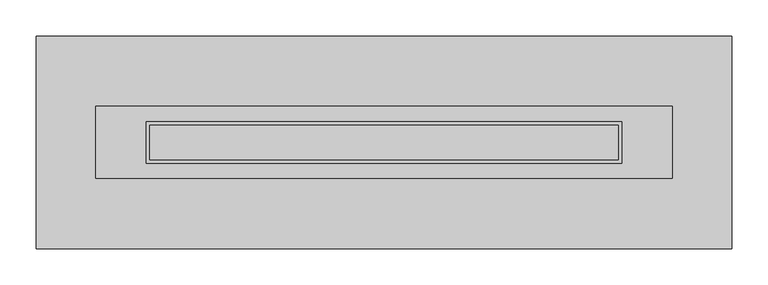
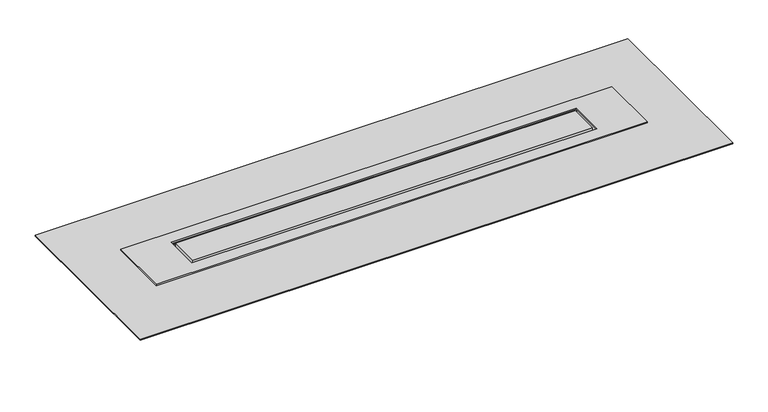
"""IFC4 building model written with IfcOpenShell, lengths in millimetres: sanitary terminal geometry, NLRS_PF_52_UN_Compact TAF Modulo Design_Easydrain : Compact TAF Modulo Design Z4."""

from ifc_helpers import new_model, si_unit, frame, origin, place, context, project, spatial, polyline, circle_curve, ellipse_curve, outline, extrude, source, transform, mapped, element, save
from ifc_brep_helpers import plane_surface, cylinder_surface, advanced_brep


def sanitary_terminal_9a77729b(model_context):
    return source(origin(), model_context, "Body", "SolidModel", [
        extrude(outline(polyline([(-175.0, -24.0), (-175.0, 24.0), (475.0, 24.0), (475.0, -24.0), (-175.0, -24.0)])), frame((0.0, 0.0, -7.0), z_axis=(0.0, 0.0, 1.0), x_axis=(1.0, 0.0, 0.0)), (0.0, 0.0, 1.0), 7.0),
        extrude(outline(polyline([(550.0, 50.0), (550.0, -50.0), (-250.0, -50.0), (-250.0, 50.0), (550.0, 50.0)]), holes=[polyline([(480.0, 29.0), (-180.0, 29.0), (-180.0, -29.0), (480.0, -29.0), (480.0, 29.0)])]), frame((0.0, 0.0, -2.0), z_axis=(0.0, 0.0, 1.0), x_axis=(1.0, 0.0, 0.0)), (0.0, 0.0, 1.0), 2.0),
        extrude(outline(polyline([(632.5, 147.5), (632.5, -147.5), (-332.5, -147.5), (-332.5, 147.5), (632.5, 147.5)]), holes=[polyline([(532.5, 31.0), (-232.5, 31.0), (-232.5, -31.0), (532.5, -31.0), (532.5, 31.0)])]), frame((0.0, 0.0, -8.0), z_axis=(0.0, 0.0, 1.0), x_axis=(1.0, 0.0, 0.0)), (0.0, 0.0, 1.0), 2.0),
        advanced_brep(
        [(-232.5, -31.0, -25.0), (40.0, -31.0, -27.0), (40.0, -31.0, -70.0), (260.0, -31.0, -70.0), (260.0, -31.0, -27.0), (532.5, -31.0, -25.0), (532.5, -31.0, -9.0), (-232.5, -31.0, -9.0), (150.0, -31.0, -25.0), (150.0, -31.0, -65.0), (532.5, 31.0, -25.0), (260.0, 31.0, -27.0), (260.0, 31.0, -70.0), (40.0, 31.0, -70.0), (40.0, 31.0, -27.0), (-232.5, 31.0, -25.0), (-232.5, 31.0, -9.0), (532.5, 31.0, -9.0), (-212.5, 0.0, -25.146789), (-172.5, 0.0, -25.440367), (532.5, 30.0, -9.0), (532.5, -30.0, -9.0), (550.0, 47.5, -7.0), (-250.0, 47.5, -7.0), (-250.0, -64.5, -7.0), (550.0, -64.5, -7.0), (-232.5, -30.0, -9.0), (-232.5, 30.0, -9.0), (472.5, 0.0, -25.440367), (512.5, 0.0, -25.146789), (150.0, -50.0, -25.0), (150.0, -50.0, -65.0), (550.0, 47.5, -9.0), (550.0, -64.5, -9.0), (-250.0, -64.5, -9.0), (-250.0, 47.5, -9.0), (-212.5, 0.0, -70.0), (-172.5, 0.0, -70.0), (472.5, 0.0, -70.0), (512.5, 0.0, -70.0)],
        [
            (0, 1),
            (1, 2),
            (2, 3),
            (3, 4),
            (4, 5),
            (5, 6),
            (6, 7),
            (7, 0),
            (8, 9, circle_curve(frame((150.0, -31.0, -45.0), z_axis=(0.0, 1.0, 0.0), x_axis=(0.0, 0.0, -1.0)), 20.0)),
            (9, 8, circle_curve(frame((150.0, -31.0, -45.0), z_axis=(0.0, 1.0, 0.0), x_axis=(0.0, 0.0, -1.0)), 20.0)),
            (10, 11),
            (11, 12),
            (12, 13),
            (13, 14),
            (14, 15),
            (15, 16),
            (16, 17),
            (17, 10),
            (0, 15),
            (14, 1),
            (18, 19, ellipse_curve(frame((-192.5, 0.0, -25.293578), z_axis=(0.007339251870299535, 0.0, 0.9999730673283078), x_axis=(-0.9999730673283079, 0.0, 0.007339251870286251)), 20.0005387, 20.0)),
            (19, 18, ellipse_curve(frame((-192.5, 0.0, -25.293578), z_axis=(0.007339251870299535, 0.0, 0.9999730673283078), x_axis=(-0.9999730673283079, 0.0, 0.007339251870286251)), 20.0005387, 20.0)),
            (5, 10),
            (17, 20),
            (20, 21),
            (21, 6),
            (22, 23),
            (23, 24),
            (24, 25),
            (25, 22),
            (7, 26),
            (26, 27),
            (27, 16),
            (13, 2),
            (12, 3),
            (11, 4),
            (28, 29, ellipse_curve(frame((492.5, 0.0, -25.293578), z_axis=(-0.00733925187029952, 0.0, 0.9999730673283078), x_axis=(0.9999730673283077, 0.0, 0.007339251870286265)), 20.0005387, 20.0)),
            (29, 28, ellipse_curve(frame((492.5, 0.0, -25.293578), z_axis=(-0.00733925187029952, 0.0, 0.9999730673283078), x_axis=(0.9999730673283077, 0.0, 0.007339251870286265)), 20.0005387, 20.0)),
            (30, 31, circle_curve(frame((150.0, -50.0, -45.0), z_axis=(0.0, -1.0, 0.0), x_axis=(0.0, 0.0, -1.0)), 20.0)),
            (31, 30, circle_curve(frame((150.0, -50.0, -45.0), z_axis=(0.0, -1.0, 0.0), x_axis=(0.0, 0.0, -1.0)), 20.0)),
            (31, 9),
            (8, 30),
            (32, 33),
            (33, 34),
            (34, 35),
            (35, 32),
            (22, 32),
            (35, 23),
            (34, 24),
            (33, 25),
            (36, 37, circle_curve(frame((-192.5, 0.0, -70.0), z_axis=(0.0, 0.0, -1.0), x_axis=(1.0, 0.0, 0.0)), 20.0)),
            (37, 36, circle_curve(frame((-192.5, 0.0, -70.0), z_axis=(0.0, 0.0, -1.0), x_axis=(1.0, 0.0, 0.0)), 20.0)),
            (38, 39, circle_curve(frame((492.5, 0.0, -70.0), z_axis=(0.0, 0.0, -1.0), x_axis=(1.0, 0.0, 0.0)), 20.0)),
            (39, 38, circle_curve(frame((492.5, 0.0, -70.0), z_axis=(0.0, 0.0, -1.0), x_axis=(1.0, 0.0, 0.0)), 20.0)),
            (37, 19),
            (18, 36),
            (39, 29),
            (28, 38),
        ],
        [
            plane_surface(frame((-232.5, -31.0, -25.0), z_axis=(0.0, -1.0, 0.0), x_axis=(0.9999730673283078, 0.0, -0.007339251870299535))),
            plane_surface(frame((-232.5, 31.0, -25.0), z_axis=(0.0, 1.0, 0.0), x_axis=(-0.9999730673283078, 0.0, 0.007339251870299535))),
            plane_surface(frame((-232.5, -31.0, -25.0), z_axis=(-0.007339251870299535, 0.0, -0.9999730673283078), x_axis=(0.0, 1.0, 0.0))),
            plane_surface(frame((532.5, -31.0, -25.0), z_axis=(1.0, 0.0, 0.0), x_axis=(0.0, 1.0, 0.0))),
            plane_surface(frame((532.5, -31.0, -7.0), z_axis=(0.0, 0.0, 1.0), x_axis=(0.0, 1.0, 0.0))),
            plane_surface(frame((-232.5, -31.0, -7.0), z_axis=(-1.0, 0.0, 0.0), x_axis=(0.0, 1.0, 0.0))),
            plane_surface(frame((40.0, -31.0, -27.0), z_axis=(-1.0, 0.0, 0.0), x_axis=(0.0, 1.0, 0.0))),
            plane_surface(frame((40.0, -31.0, -70.0), z_axis=(0.0, 0.0, -1.0), x_axis=(0.0, 1.0, 0.0))),
            plane_surface(frame((260.0, -31.0, -70.0), z_axis=(1.0, 0.0, 0.0), x_axis=(0.0, 1.0, 0.0))),
            plane_surface(frame((260.0, -31.0, -27.0), z_axis=(0.00733925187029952, 0.0, -0.9999730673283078), x_axis=(0.0, 1.0, 0.0))),
            plane_surface(frame((150.0, -50.0, -45.0), z_axis=(0.0, -1.0, 0.0), x_axis=(1.0, 0.0, 0.0))),
            cylinder_surface(frame((150.0, 0.0, -45.0), z_axis=(0.0, 1.0, 0.0), x_axis=(0.0, 0.0, -1.0)), 20.0),
            plane_surface(frame((532.5, 30.0, -9.0), z_axis=(0.0, 0.0, -1.0), x_axis=(0.0, 1.0, 0.0))),
            plane_surface(frame((550.0, 47.5, -7.0), z_axis=(0.0, 1.0, 0.0), x_axis=(0.0, 0.0, -1.0))),
            plane_surface(frame((-250.0, 47.5, -7.0), z_axis=(-1.0, 0.0, 0.0), x_axis=(0.0, 0.0, -1.0))),
            plane_surface(frame((-250.0, -64.5, -7.0), z_axis=(0.0, -1.0, 0.0), x_axis=(0.0, 0.0, -1.0))),
            plane_surface(frame((550.0, -64.5, -7.0), z_axis=(1.0, 0.0, 0.0), x_axis=(0.0, 0.0, -1.0))),
            plane_surface(frame((-172.5, 0.0, -70.0), z_axis=(0.0, 0.0, -1.0), x_axis=(0.0, -1.0, 0.0))),
            cylinder_surface(frame((-192.5, 0.0, -70.0), z_axis=(0.0, 0.0, 1.0), x_axis=(1.0, 0.0, 0.0)), 20.0),
            cylinder_surface(frame((492.5, 0.0, 0.0), z_axis=(0.0, 0.0, 1.0), x_axis=(1.0, 0.0, 0.0)), 20.0),
        ],
        [
            (0, [[1, 2, 3, 4, 5, 6, 7, 8], [9, 10]]),
            (1, [[11, 12, 13, 14, 15, 16, 17, 18]]),
            (2, [[-1, 19, -15, 20], [21, 22]]),
            (3, [[23, -18, 24, 25, 26, -6]]),
            (4, [[27, 28, 29, 30]]),
            (5, [[-19, -8, 31, 32, 33, -16]]),
            (6, [[-2, -20, -14, 34]]),
            (7, [[-3, -34, -13, 35]]),
            (8, [[-4, -35, -12, 36]]),
            (9, [[-5, -36, -11, -23], [37, 38]]),
            (10, [[39, 40]]),
            (11, [[-40, 41, -9, 42]]),
            (11, [[-39, -42, -10, -41]]),
            (12, [[43, 44, 45, 46], [-7, -26, -25, -24, -17, -33, -32, -31]]),
            (13, [[-27, 47, -46, 48]]),
            (14, [[-28, -48, -45, 49]]),
            (15, [[-29, -49, -44, 50]]),
            (16, [[-30, -50, -43, -47]]),
            (17, [[51, 52]]),
            (17, [[53, 54]]),
            (18, [[-52, 55, -21, 56]]),
            (18, [[-51, -56, -22, -55]]),
            (19, [[-54, 57, -37, 58]]),
            (19, [[-53, -58, -38, -57]]),
        ],
    ),
    ])


if __name__ == "__main__":
    model = new_model("IFC4")
    model_context = context("Model", 3, world=origin())
    ifc_project = project(units=[si_unit("LENGTHUNIT", "METRE", prefix="MILLI")], contexts=[model_context])
    site = spatial("IfcSite", under=ifc_project)
    building = spatial("IfcBuilding", under=site)
    placement = place(None, origin())
    sanitary_terminal_shape = sanitary_terminal_9a77729b(model_context)
    element("IfcSanitaryTerminal", 1, ObjectType="NLRS_PF_52_UN_Compact TAF Modulo Design_Easydrain : Compact TAF Modulo Design Z4", at=placement, inside=building, context=model_context, shape_type="MappedRepresentation", body=[
        mapped(sanitary_terminal_shape, transform((0.0, 0.0, 0.0), x_axis=(1.0, 0.0, 0.0), y_axis=(0.0, 1.0, 0.0), z_axis=(0.0, 0.0, 1.0))),
    ])
    save(model, "model.ifc")
